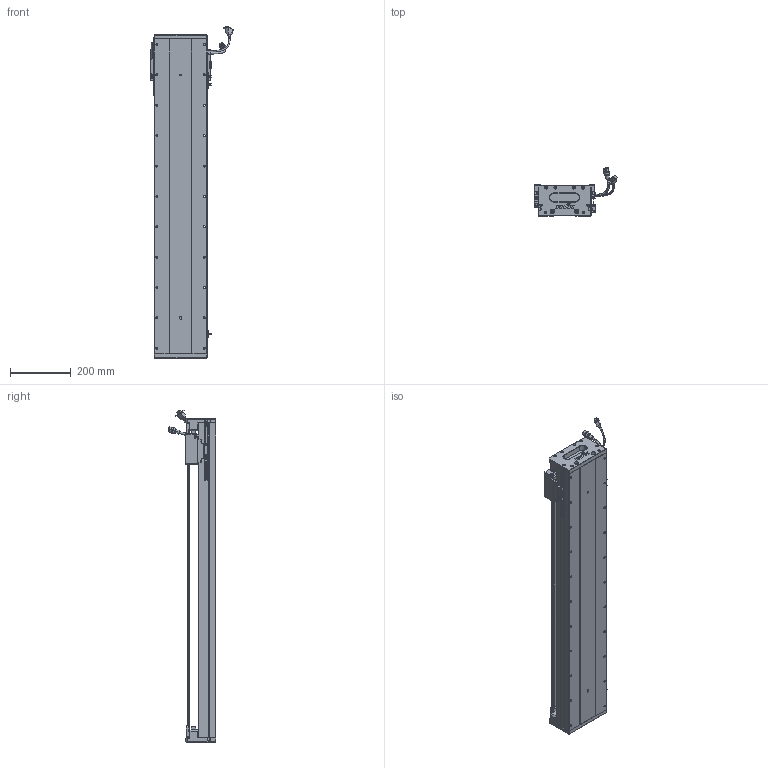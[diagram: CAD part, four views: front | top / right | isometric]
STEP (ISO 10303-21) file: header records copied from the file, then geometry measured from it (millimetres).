
FILE_DESCRIPTION (( 'STEP AP203' ), '1' );
FILE_NAME ('Z1-RY170D-1-L500-B-K.SLDASM_0850.step', '2021-05-17T08:52:05', ( '盈信电脑' ), ( '东莞市道滘镇水果街19号' ), 'SwSTEP 2.0', 'SolidWorks 2016', '' );
FILE_SCHEMA (( 'CONFIG_CONTROL_DESIGN' ));
Length unit declared in the file: millimetre
Products named in the file (36): PSLH080_PSLF2; 覜茼ん672; SCALE-Part-1; Z1-RY170臏賑輸(21遴); LABEL-Part-1; Z1-RY170-L500耀郪菁釱_0850; SCREW-M1.6-3; SCALE; PBU_SHEET; SCREW-M1.7; Z1-RY170-L500詩湍145mm遵_0850; HARNESS; 170-Z-臏賑輸盄裔(21遴); SCALE-Part-2; 榋妏寠巭燃_暯_M2_2; Z1-RY170D-1-L500-B-K.SLDASM_0850; LABEL; 140雄赽晤鎢ん堤盄; HARNESS-Part-2; 140蚥薯蝶輸; 080黍杅芛假蚾釱21遴; SHIELDPLATE; SCREW-M1.6-1; COVER-Part-1; RY170直线电机感应器672光电感应片; SCREW-M1.7-1; HOLDER0; SEAL-Part-1; Z-170詩湍傷裔啣; COVER; HARNESS-Part-1; Z-RY170詩湍奻揤裔; SEAL; SCREW-M1.6-2; SCREW-M1.6; Z-RY170詩湍狟揤裔
Assembly tree (41 placements, depth 4):
  Z1-RY170D-1-L500-B-K.SLDASM_0850
    Z1-RY170-L500耀郪菁釱_0850
    RY170直线电机感应器672光电感应片
    Z1-RY170臏賑輸(21遴)
    覜茼ん672  x3
    PSLH080_PSLF2
      SCALE
        SCALE-Part-1
        SCALE-Part-2
      HARNESS
        HARNESS-Part-1
        HARNESS-Part-2
      LABEL
        LABEL-Part-1
      COVER
        COVER-Part-1
      SEAL
        SEAL-Part-1
      榋妏寠巭燃_暯_M2_2
      SHIELDPLATE
      SCREW-M1.7
      SCREW-M1.7-1
      PBU_SHEET
      SCREW-M1.6
      SCREW-M1.6-1
      SCREW-M1.6-2
      SCREW-M1.6-3
      HOLDER0
    080黍杅芛假蚾釱21遴
    Z1-RY170-L500詩湍145mm遵_0850
    Z-170詩湍傷裔啣  x2
    Z-RY170詩湍奻揤裔  x2
    Z-RY170詩湍狟揤裔  x2
    140蚥薯蝶輸  x2
    170-Z-臏賑輸盄裔(21遴)
    140雄赽晤鎢ん堤盄
Bounding box: 275.34 x 158.11 x 1093.72 mm (x, y, z)
Volume: 5846931.7 mm3; surface area: 1451681.2 mm2
Topology: 36 solids, 36 shells, 2968 faces, 7963 edges, 5015 vertices
Faces by surface type: cylinder 1346, plane 1148, cone 352, torus 69, bspline 53
Entity records: 87139 total; most frequent: CARTESIAN_POINT 22428, ORIENTED_EDGE 12794, DIRECTION 12509, EDGE_CURVE 6397, AXIS2_PLACEMENT_3D 4554, VERTEX_POINT 4133, VECTOR 3401, LINE 3401
